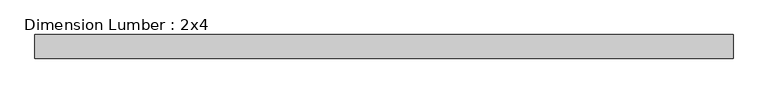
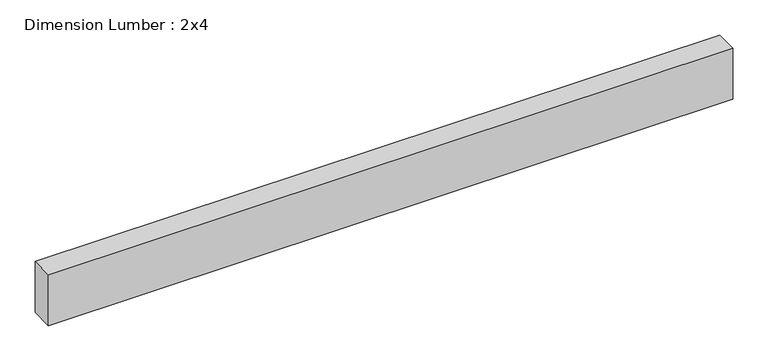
"""IFC4 building model written with IfcOpenShell, lengths in millimetres: beam geometry, Dimension Lumber : 2x4."""

from ifc_helpers import new_model, si_unit, frame, origin, place, context, project, spatial, polyline, outline, extrude, source, transform, mapped, element, save


def dimension_lumber_2x4_98e8c57f(model_context):
    return source(origin(), model_context, "Body", "SweptSolid", [
        extrude(outline(polyline([(563.4526675, 19.05), (563.4526675, -19.05), (-563.4526675, -19.05), (-563.4526675, 19.05), (563.4526675, 19.05)])), frame((0.0, 0.0, -44.45), z_axis=(0.0, 0.0, 1.0), x_axis=(1.0, 0.0, 0.0)), (0.0, 0.0, 1.0), 88.9),
    ])


if __name__ == "__main__":
    model = new_model("IFC4")
    model_context = context("Model", 3, world=origin())
    ifc_project = project(units=[si_unit("LENGTHUNIT", "METRE", prefix="MILLI")], contexts=[model_context])
    site = spatial("IfcSite", under=ifc_project)
    building = spatial("IfcBuilding", under=site)
    placement = place(None, origin())
    dimension_lumber_2x4_shape = dimension_lumber_2x4_98e8c57f(model_context)
    element("IfcBeam", 1, ObjectType="Dimension Lumber : 2x4", at=placement, inside=building, context=model_context, shape_type="MappedRepresentation", body=[
        mapped(dimension_lumber_2x4_shape, transform((0.0, 0.0, 0.0), x_axis=(1.0, 0.0, 0.0), y_axis=(0.0, 1.0, 0.0), z_axis=(0.0, 0.0, 1.0))),
    ])
    save(model, "model.ifc")
